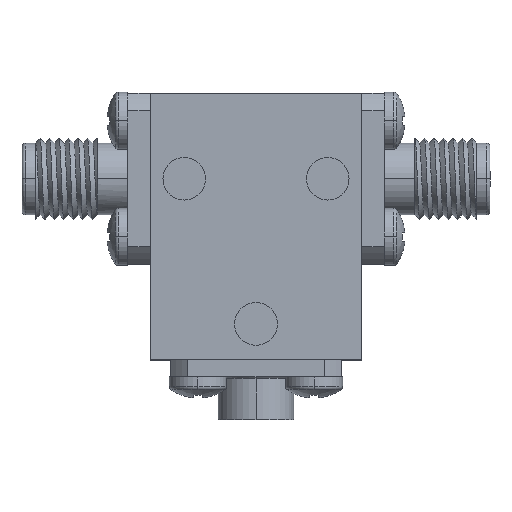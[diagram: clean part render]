
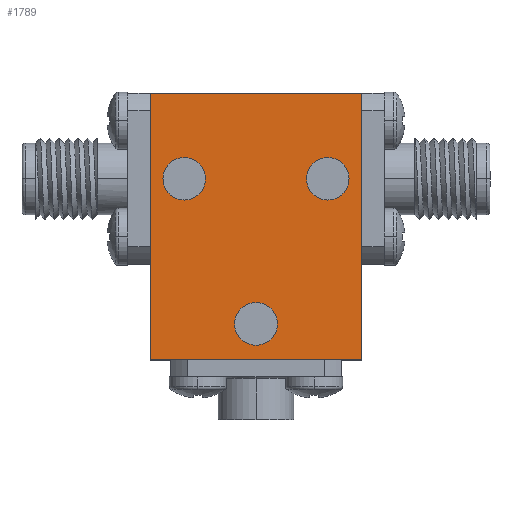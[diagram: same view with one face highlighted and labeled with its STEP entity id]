
A CAD part, top view. The second image highlights one B-rep face of the part: STEP entity #1789.
In plain terms, the highlighted planar face has unit normal (0, 0, 1).
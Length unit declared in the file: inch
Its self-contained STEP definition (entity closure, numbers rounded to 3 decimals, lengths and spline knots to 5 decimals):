
#78 = EDGE_LOOP ( 'NONE', ( #4231, #277 ) ) ;
#130 = CARTESIAN_POINT ( 'NONE',  ( -0.0625, -0.285, 0.25 ) ) ;
#215 = ORIENTED_EDGE ( 'NONE', *, *, #3033, .T. ) ;
#228 = EDGE_LOOP ( 'NONE', ( #2305, #4753 ) ) ;
#274 = DIRECTION ( 'NONE',  ( 0., 0., 1. ) ) ;
#277 = ORIENTED_EDGE ( 'NONE', *, *, #2012, .F. ) ;
#383 = EDGE_CURVE ( 'NONE', #990, #2468, #831, .T. ) ;
#447 = DIRECTION ( 'NONE',  ( 0., 0., 1. ) ) ;
#503 = DIRECTION ( 'NONE',  ( 0., 0., 1. ) ) ;
#514 = EDGE_CURVE ( 'NONE', #3087, #4306, #4155, .T. ) ;
#522 = DIRECTION ( 'NONE',  ( 1., 0., 0. ) ) ;
#533 = LINE ( 'NONE', #3652, #917 ) ;
#584 = EDGE_CURVE ( 'NONE', #2468, #1925, #4724, .T. ) ;
#636 = FACE_BOUND ( 'NONE', #228, .T. ) ;
#710 = VECTOR ( 'NONE', #2963, 39.37008 ) ;
#740 = VERTEX_POINT ( 'NONE', #3667 ) ;
#745 = DIRECTION ( 'NONE',  ( 1., 0., 0. ) ) ;
#748 = CARTESIAN_POINT ( 'NONE',  ( -0.31, 0.39, 0.25 ) ) ;
#831 = LINE ( 'NONE', #980, #710 ) ;
#836 = EDGE_LOOP ( 'NONE', ( #4985, #3601, #215, #1558 ) ) ;
#917 = VECTOR ( 'NONE', #4061, 39.37008 ) ;
#980 = CARTESIAN_POINT ( 'NONE',  ( 0.31, 0.39, 0.25 ) ) ;
#981 = CARTESIAN_POINT ( 'NONE',  ( 0.31, 0.39, 0.25 ) ) ;
#990 = VERTEX_POINT ( 'NONE', #4222 ) ;
#1088 = AXIS2_PLACEMENT_3D ( 'NONE', #2519, #503, #3297 ) ;
#1090 = DIRECTION ( 'NONE',  ( 1., 0., 0. ) ) ;
#1094 = EDGE_CURVE ( 'NONE', #4921, #740, #2084, .T. ) ;
#1149 = DIRECTION ( 'NONE',  ( -1., 0., 0. ) ) ;
#1224 = CARTESIAN_POINT ( 'NONE',  ( -0.21, 0.14, 0.25 ) ) ;
#1276 = VECTOR ( 'NONE', #1149, 39.37008 ) ;
#1512 = CIRCLE ( 'NONE', #2990, 0.0625 ) ;
#1523 = CARTESIAN_POINT ( 'NONE',  ( 0., -0.285, 0.25 ) ) ;
#1558 = ORIENTED_EDGE ( 'NONE', *, *, #4440, .T. ) ;
#1562 = DIRECTION ( 'NONE',  ( 0., 0., 1. ) ) ;
#1579 = CARTESIAN_POINT ( 'NONE',  ( 0.2725, 0.14, 0.25 ) ) ;
#1768 = DIRECTION ( 'NONE',  ( 0., -1., 0. ) ) ;
#1789 = ADVANCED_FACE ( 'NONE', ( #636, #3708, #4147, #4831 ), #5081, .T. ) ;
#1888 = AXIS2_PLACEMENT_3D ( 'NONE', #4234, #274, #1090 ) ;
#1925 = VERTEX_POINT ( 'NONE', #2846 ) ;
#1973 = EDGE_CURVE ( 'NONE', #740, #4921, #2685, .T. ) ;
#2012 = EDGE_CURVE ( 'NONE', #2355, #2746, #2568, .T. ) ;
#2015 = DIRECTION ( 'NONE',  ( 0., 0., 1. ) ) ;
#2068 = DIRECTION ( 'NONE',  ( 1., 0., 0. ) ) ;
#2084 = CIRCLE ( 'NONE', #4799, 0.0625 ) ;
#2090 = CARTESIAN_POINT ( 'NONE',  ( 0.21, 0.14, 0.25 ) ) ;
#2131 = CARTESIAN_POINT ( 'NONE',  ( -0.21, 0.14, 0.25 ) ) ;
#2305 = ORIENTED_EDGE ( 'NONE', *, *, #4656, .F. ) ;
#2332 = AXIS2_PLACEMENT_3D ( 'NONE', #2090, #447, #2068 ) ;
#2355 = VERTEX_POINT ( 'NONE', #2502 ) ;
#2386 = ORIENTED_EDGE ( 'NONE', *, *, #1973, .F. ) ;
#2419 = AXIS2_PLACEMENT_3D ( 'NONE', #3996, #1562, #4350 ) ;
#2461 = DIRECTION ( 'NONE',  ( 1., 0., 0. ) ) ;
#2468 = VERTEX_POINT ( 'NONE', #981 ) ;
#2502 = CARTESIAN_POINT ( 'NONE',  ( -0.2725, 0.14, 0.25 ) ) ;
#2519 = CARTESIAN_POINT ( 'NONE',  ( 0., -0.285, 0.25 ) ) ;
#2568 = CIRCLE ( 'NONE', #4036, 0.0625 ) ;
#2685 = CIRCLE ( 'NONE', #1088, 0.0625 ) ;
#2746 = VERTEX_POINT ( 'NONE', #3955 ) ;
#2781 = ORIENTED_EDGE ( 'NONE', *, *, #1094, .F. ) ;
#2846 = CARTESIAN_POINT ( 'NONE',  ( -0.31, 0.39, 0.25 ) ) ;
#2849 = VERTEX_POINT ( 'NONE', #3574 ) ;
#2861 = VECTOR ( 'NONE', #1768, 39.37008 ) ;
#2865 = EDGE_CURVE ( 'NONE', #2746, #2355, #1512, .T. ) ;
#2914 = DIRECTION ( 'NONE',  ( 0., 0., 1. ) ) ;
#2938 = CARTESIAN_POINT ( 'NONE',  ( 0.1475, 0.14, 0.25 ) ) ;
#2963 = DIRECTION ( 'NONE',  ( 0., 1., 0. ) ) ;
#2990 = AXIS2_PLACEMENT_3D ( 'NONE', #1224, #2015, #2461 ) ;
#3033 = EDGE_CURVE ( 'NONE', #1925, #2849, #5205, .T. ) ;
#3087 = VERTEX_POINT ( 'NONE', #2938 ) ;
#3297 = DIRECTION ( 'NONE',  ( 1., 0., 0. ) ) ;
#3574 = CARTESIAN_POINT ( 'NONE',  ( -0.31, -0.39, 0.25 ) ) ;
#3601 = ORIENTED_EDGE ( 'NONE', *, *, #584, .T. ) ;
#3652 = CARTESIAN_POINT ( 'NONE',  ( -0.31, -0.39, 0.25 ) ) ;
#3667 = CARTESIAN_POINT ( 'NONE',  ( 0.0625, -0.285, 0.25 ) ) ;
#3708 = FACE_BOUND ( 'NONE', #4845, .T. ) ;
#3955 = CARTESIAN_POINT ( 'NONE',  ( -0.1475, 0.14, 0.25 ) ) ;
#3996 = CARTESIAN_POINT ( 'NONE',  ( 0.21, 0.14, 0.25 ) ) ;
#4036 = AXIS2_PLACEMENT_3D ( 'NONE', #2131, #2914, #522 ) ;
#4061 = DIRECTION ( 'NONE',  ( 1., 0., 0. ) ) ;
#4147 = FACE_BOUND ( 'NONE', #78, .T. ) ;
#4148 = CARTESIAN_POINT ( 'NONE',  ( -0.31, 0.39, 0.25 ) ) ;
#4155 = CIRCLE ( 'NONE', #2419, 0.0625 ) ;
#4222 = CARTESIAN_POINT ( 'NONE',  ( 0.31, -0.39, 0.25 ) ) ;
#4229 = CIRCLE ( 'NONE', #2332, 0.0625 ) ;
#4231 = ORIENTED_EDGE ( 'NONE', *, *, #2865, .F. ) ;
#4234 = CARTESIAN_POINT ( 'NONE',  ( 0., 0., 0.25 ) ) ;
#4306 = VERTEX_POINT ( 'NONE', #1579 ) ;
#4350 = DIRECTION ( 'NONE',  ( 1., 0., 0. ) ) ;
#4440 = EDGE_CURVE ( 'NONE', #2849, #990, #533, .T. ) ;
#4656 = EDGE_CURVE ( 'NONE', #4306, #3087, #4229, .T. ) ;
#4704 = DIRECTION ( 'NONE',  ( 0., 0., 1. ) ) ;
#4724 = LINE ( 'NONE', #748, #1276 ) ;
#4753 = ORIENTED_EDGE ( 'NONE', *, *, #514, .F. ) ;
#4799 = AXIS2_PLACEMENT_3D ( 'NONE', #1523, #4704, #745 ) ;
#4831 = FACE_OUTER_BOUND ( 'NONE', #836, .T. ) ;
#4845 = EDGE_LOOP ( 'NONE', ( #2386, #2781 ) ) ;
#4921 = VERTEX_POINT ( 'NONE', #130 ) ;
#4985 = ORIENTED_EDGE ( 'NONE', *, *, #383, .T. ) ;
#5081 = PLANE ( 'NONE',  #1888 ) ;
#5205 = LINE ( 'NONE', #4148, #2861 ) ;
